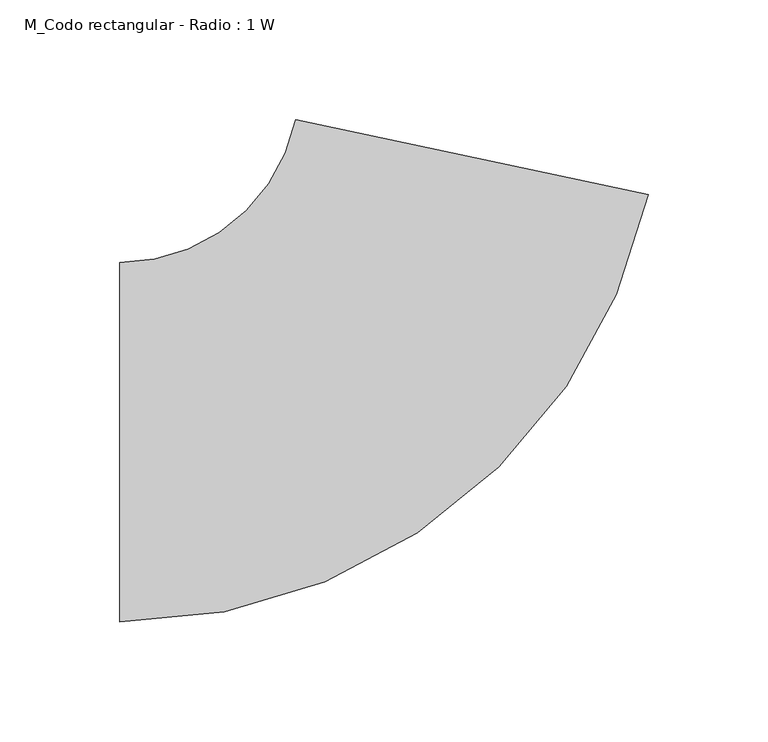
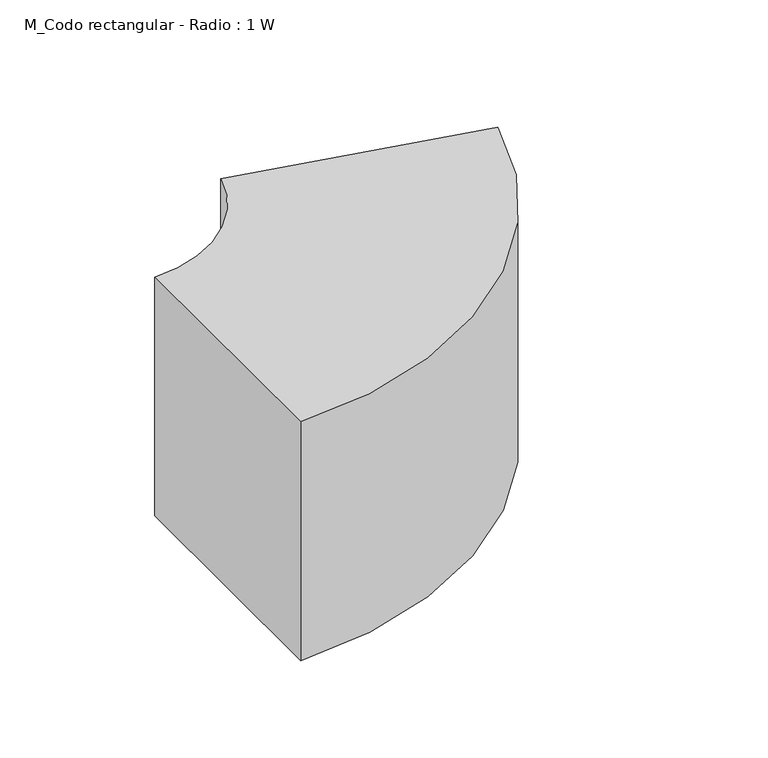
"""IFC4 building model written with IfcOpenShell, lengths in millimetres: duct fitting geometry, M_Codo rectangular - Radio : 1 W."""

from ifc_helpers import new_model, si_unit, point, frame, frame_2d, origin, place, context, project, spatial, polyline, circle_curve, trimmed, segment, composite_curve, outline, extrude, source, transform, mapped, element, save


def m_codo_rectangular_radio_1_w_b65d0296(model_context):
    return source(origin(), model_context, "Body", "SweptSolid", [
        extrude(outline(composite_curve([segment(trimmed(circle_curve(frame_2d((-121.467605, 150.0)), 225.0), [point((98.6156052, 103.2198696))], [point((-121.467605, -75.0))], False, "CARTESIAN"), True, "CONTINUOUS"), segment(polyline([(-121.467605, -75.0), (-121.467605, 75.0)]), True, "CONTINUOUS"), segment(trimmed(circle_curve(frame_2d((-121.467605, 150.0)), 75.0), [point((-121.467605, 75.0))], [point((-48.1065349, 134.4066232))], True, "CARTESIAN"), True, "CONTINUOUS"), segment(polyline([(-48.1065349, 134.4066232), (98.6156052, 103.2198696)]), True, "CONTINUOUS")], self_intersect=False)), frame((0.0, 0.0, -75.0), z_axis=(0.0, 0.0, 1.0), x_axis=(1.0, 0.0, 0.0)), (0.0, 0.0, 1.0), 150.0),
    ])


if __name__ == "__main__":
    model = new_model("IFC4")
    model_context = context("Model", 3, world=origin())
    ifc_project = project(units=[si_unit("LENGTHUNIT", "METRE", prefix="MILLI")], contexts=[model_context])
    site = spatial("IfcSite", under=ifc_project)
    building = spatial("IfcBuilding", under=site)
    placement = place(None, origin())
    m_codo_rectangular_radio_1_w_shape = m_codo_rectangular_radio_1_w_b65d0296(model_context)
    element("IfcDuctFitting", 1, ObjectType="M_Codo rectangular - Radio : 1 W", at=placement, inside=building, context=model_context, shape_type="MappedRepresentation", body=[
        mapped(m_codo_rectangular_radio_1_w_shape, transform((0.0, 0.0, 0.0), x_axis=(1.0, 0.0, 0.0), y_axis=(0.0, 1.0, 0.0), z_axis=(0.0, 0.0, 1.0))),
    ])
    save(model, "model.ifc")
